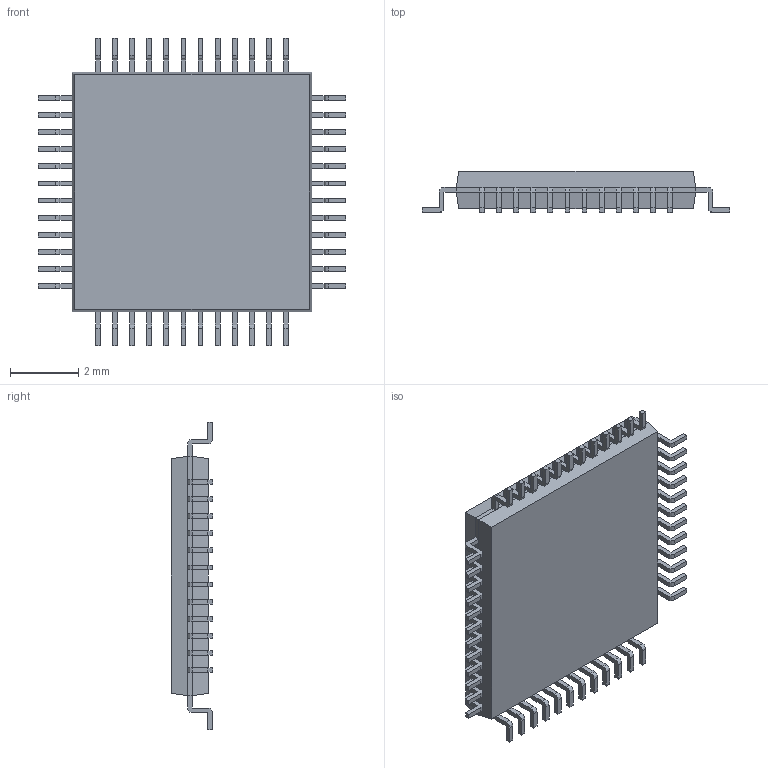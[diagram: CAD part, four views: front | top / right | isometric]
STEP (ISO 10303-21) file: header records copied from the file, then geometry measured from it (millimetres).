
FILE_DESCRIPTION(('FreeCAD Model'),'2;1');
FILE_NAME('Open CASCADE Shape Model','2025-09-29T16:55:37',(''),(''), 'Open CASCADE STEP processor 7.8','FreeCAD','Unknown');
FILE_SCHEMA(('AUTOMOTIVE_DESIGN { 1 0 10303 214 1 1 1 1 }'));
Length unit declared in the file: millimetre
Products named in the file (13): QFP_standard; Array; Body001 (Mirror #1); Array001; Body001; Array002; Body002 (Mirror #2); Array003; Body002; Body; Body004; XY-plane; X-axis
Assembly tree (84 placements, depth 3):
  QFP_standard
    Array
      Body001 (Mirror #1)  x12
    Array001
      Body001  x12
    Array002
      Body002 (Mirror #2)  x12
    Array003
      Body002  x12
    Body
    Body004
    XY-plane  x15
    X-axis  x15
Bounding box: 9 x 1.2 x 9 mm (x, y, z)
Volume: 53.5 mm3; surface area: 168.5 mm2
Topology: 50 solids, 50 shells, 595 faces, 1489 edges, 980 vertices
Faces by surface type: plane 497, cylinder 98
Full cylindrical faces by diameter (mm): 0.636 x2
Entity records: 2725 total; most frequent: DIRECTION 479, CARTESIAN_POINT 407, ORIENTED_EDGE 308, AXIS2_PLACEMENT_3D 172, EDGE_CURVE 154, LINE 135, VECTOR 135, VERTEX_POINT 100
